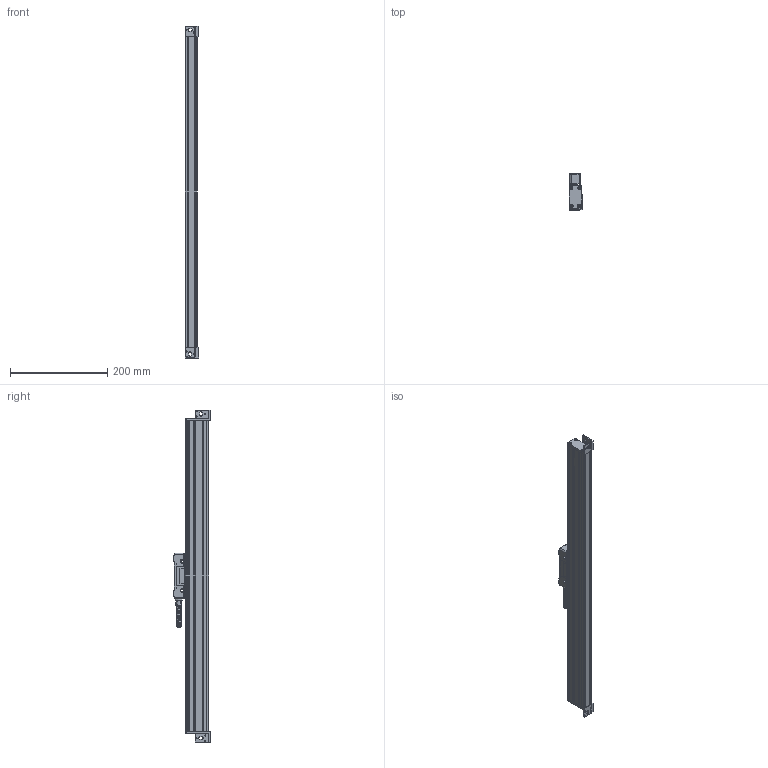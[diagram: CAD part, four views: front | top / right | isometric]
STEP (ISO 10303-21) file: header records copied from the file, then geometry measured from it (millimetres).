
FILE_DESCRIPTION (( 'STEP AP214' ), '1' );
FILE_NAME ('MLC310x0520.STEP', '2021-05-08T11:50:09', ( '' ), ( '' ), 'SwSTEP 2.0', 'SolidWorks 2014', '' );
FILE_SCHEMA (( 'AUTOMOTIVE_DESIGN' ));
Length unit declared in the file: millimetre
Products named in the file (1): MLC310x0520
Bounding box: 27 x 75.15 x 684 mm (x, y, z)
Surface area: 128436.9 mm2 (no closed solid volume)
Topology: 0 solids, 23 shells, 423 faces, 1375 edges, 966 vertices
Faces by surface type: plane 173, cylinder 139, cone 77, bspline 26, torus 8
Entity records: 30012 total; most frequent: CARTESIAN_POINT 13647, DIRECTION 2389, ORIENTED_EDGE 2180, EDGE_CURVE 1369, VERTEX_POINT 966, AXIS2_PLACEMENT_3D 826, LINE 737, VECTOR 737
